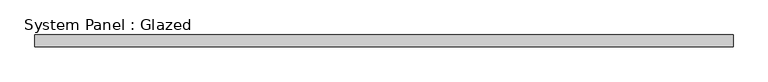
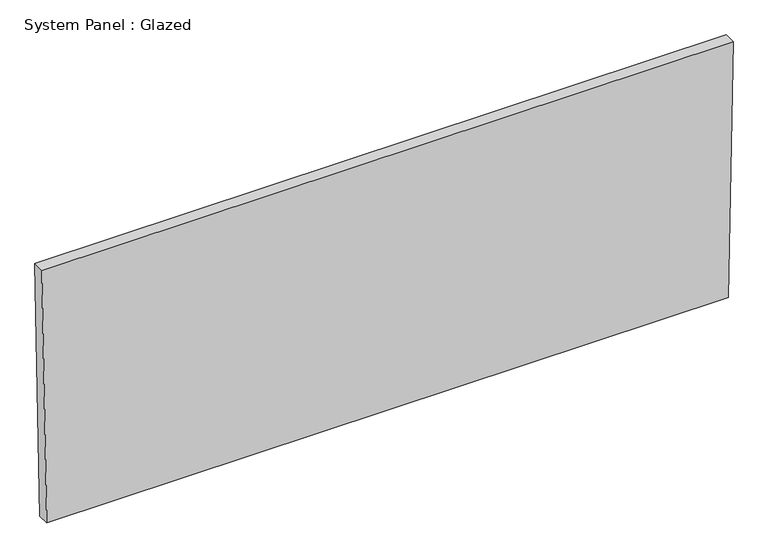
"""IFC4 building model written with IfcOpenShell, lengths in millimetres: plate geometry, System Panel : Glazed."""

from ifc_helpers import new_model, si_unit, frame, origin, place, context, project, spatial, polyline, outline, extrude, source, transform, mapped, element, save


def system_panel_glazed_e5225984(model_context):
    return source(origin(), model_context, "Body", "SweptSolid", [
        extrude(outline(polyline([(0.0, -739.5706547), (0.0, 739.5706547), (584.0951149, 750.4071554), (584.0951149, -750.4071554), (0.0, -739.5706547)])), frame((0.0, -44.45, 0.0), z_axis=(0.0, 1.0, 0.0), x_axis=(0.0, 0.0, 1.0)), (0.0, 0.0, 1.0), 25.4),
    ])


if __name__ == "__main__":
    model = new_model("IFC4")
    model_context = context("Model", 3, world=origin())
    ifc_project = project(units=[si_unit("LENGTHUNIT", "METRE", prefix="MILLI")], contexts=[model_context])
    site = spatial("IfcSite", under=ifc_project)
    building = spatial("IfcBuilding", under=site)
    placement = place(None, origin())
    system_panel_glazed_shape = system_panel_glazed_e5225984(model_context)
    element("IfcPlate", 1, ObjectType="System Panel : Glazed", at=placement, inside=building, context=model_context, shape_type="MappedRepresentation", body=[
        mapped(system_panel_glazed_shape, transform((0.0, 0.0, 0.0), x_axis=(1.0, 0.0, 0.0), y_axis=(0.0, 1.0, 0.0), z_axis=(0.0, 0.0, 1.0))),
    ])
    save(model, "model.ifc")
